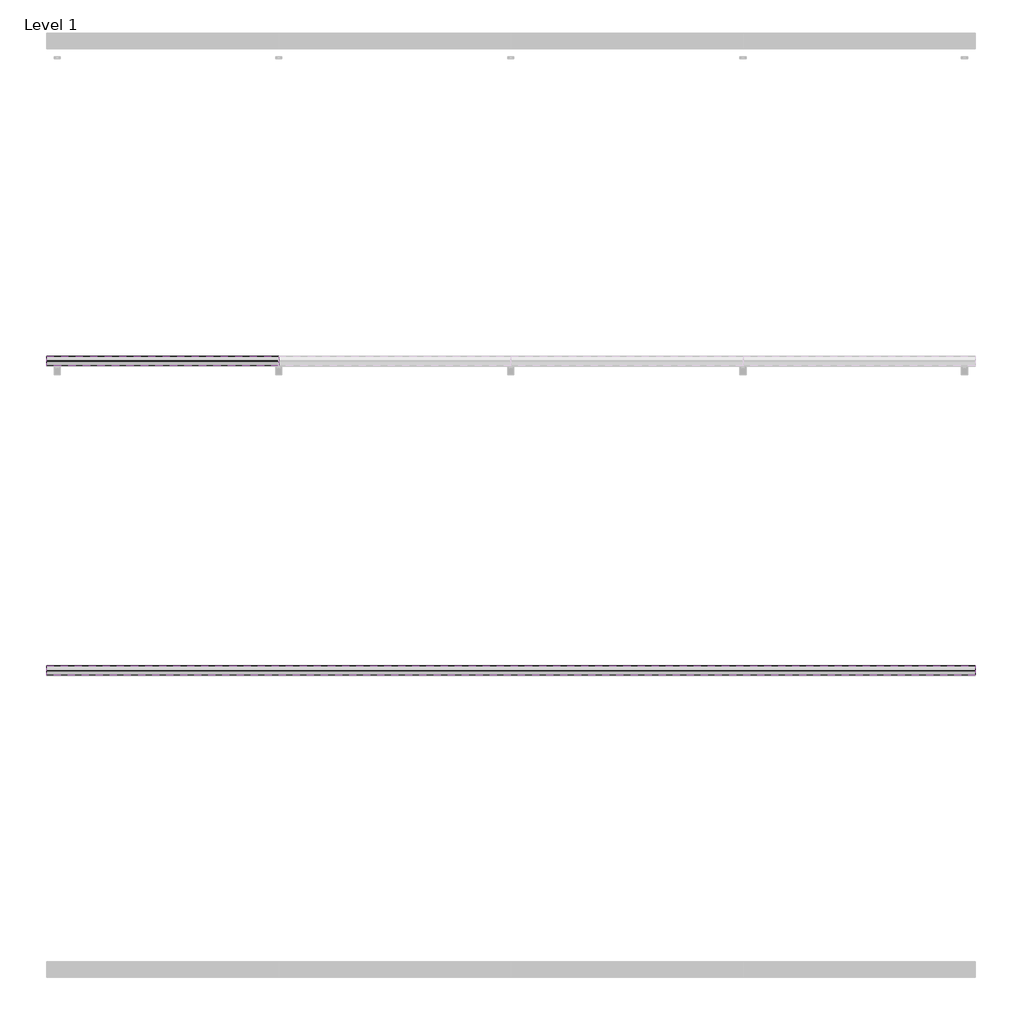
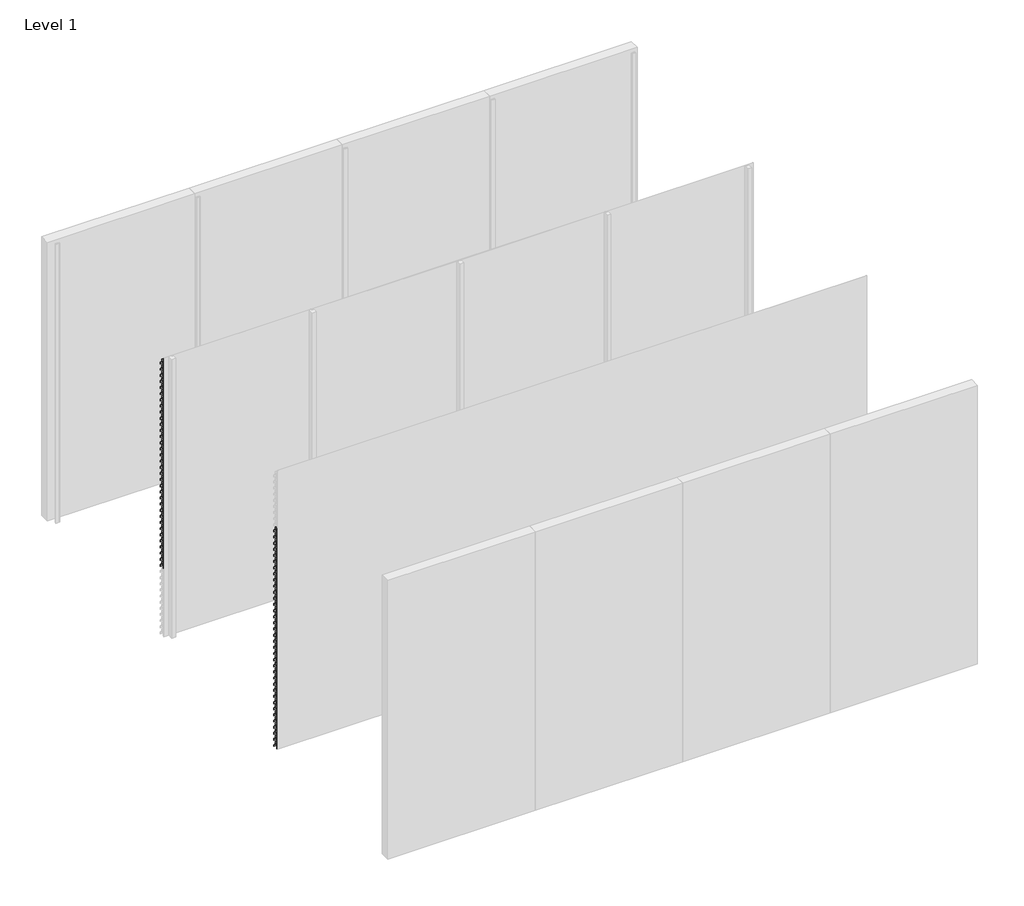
# One storey, part 16 of 35: 70 proxies.
"""IFC4 building model written with IfcOpenShell, lengths in millimetres."""

from ifc_helpers import new_model, si_unit, frame, origin, place, context, project, spatial, polyline, outline, extrude, element, save

model = new_model("IFC4")

# Units and contexts
model_context = context("Model", 3, world=origin())
ifc_project = project(units=[si_unit("LENGTHUNIT", "METRE", prefix="MILLI")], contexts=[model_context])

# Site, building, storey
site = spatial("IfcSite", under=ifc_project)
building = spatial("IfcBuilding", under=site)
storey = spatial("IfcBuildingStorey", under=building, Name="Level 1", Elevation=0.0)

# Proxies
placement = place(None, origin())
element("IfcBuildingElementProxy", 1, Name="Wall Sweeps", at=placement, inside=storey, context=model_context, shape_type="SweptSolid", body=[
    extrude(outline(polyline([(-29936.0, 2916.0), (-29936.0, 2896.0), (-29937.25, 2896.0), (-29937.25, 2915.4342979), (-29968.1138939, 2948.531772), (-29996.7, 2928.4392868), (-29996.7, 2909.6629874), (-29998.0, 2908.8506572), (-29998.0, 2929.1145472), (-29968.537525, 2949.823011), (-29968.537525, 2970.0), (-29967.1772624, 2970.0), (-29967.1772624, 2949.4335207), (-29936.0, 2916.0)])), frame((0.0, 0.0, 0.0), z_axis=(1.0, 0.0, 0.0), x_axis=(0.0, 1.0, 0.0)), (0.0, 0.0, 1.0), 1500.0),
])
element("IfcBuildingElementProxy", 2, Name="Wall Sweeps", at=placement, inside=storey, context=model_context, shape_type="SweptSolid", body=[
    extrude(outline(polyline([(-29936.0, 2850.0), (-29936.0, 2830.0), (-29937.25, 2830.0), (-29937.25, 2849.4342979), (-29968.1138939, 2882.531772), (-29996.7, 2862.4392868), (-29996.7, 2843.6629874), (-29998.0, 2842.8506572), (-29998.0, 2863.1145472), (-29968.537525, 2883.823011), (-29968.537525, 2904.0), (-29967.1772624, 2904.0), (-29967.1772624, 2883.4335207), (-29936.0, 2850.0)])), frame((0.0, 0.0, 0.0), z_axis=(1.0, 0.0, 0.0), x_axis=(0.0, 1.0, 0.0)), (0.0, 0.0, 1.0), 1500.0),
])
element("IfcBuildingElementProxy", 3, Name="Wall Sweeps", at=placement, inside=storey, context=model_context, shape_type="SweptSolid", body=[
    extrude(outline(polyline([(-29936.0, 2784.0), (-29936.0, 2764.0), (-29937.25, 2764.0), (-29937.25, 2783.4342979), (-29968.1138939, 2816.531772), (-29996.7, 2796.4392868), (-29996.7, 2777.6629874), (-29998.0, 2776.8506572), (-29998.0, 2797.1145472), (-29968.537525, 2817.823011), (-29968.537525, 2838.0), (-29967.1772624, 2838.0), (-29967.1772624, 2817.4335207), (-29936.0, 2784.0)])), frame((0.0, 0.0, 0.0), z_axis=(1.0, 0.0, 0.0), x_axis=(0.0, 1.0, 0.0)), (0.0, 0.0, 1.0), 1500.0),
])
element("IfcBuildingElementProxy", 4, Name="Wall Sweeps", at=placement, inside=storey, context=model_context, shape_type="SweptSolid", body=[
    extrude(outline(polyline([(-29936.0, 2718.0), (-29936.0, 2698.0), (-29937.25, 2698.0), (-29937.25, 2717.4342979), (-29968.1138939, 2750.531772), (-29996.7, 2730.4392868), (-29996.7, 2711.6629874), (-29998.0, 2710.8506572), (-29998.0, 2731.1145472), (-29968.537525, 2751.823011), (-29968.537525, 2772.0), (-29967.1772624, 2772.0), (-29967.1772624, 2751.4335207), (-29936.0, 2718.0)])), frame((0.0, 0.0, 0.0), z_axis=(1.0, 0.0, 0.0), x_axis=(0.0, 1.0, 0.0)), (0.0, 0.0, 1.0), 1500.0),
])
element("IfcBuildingElementProxy", 5, Name="Wall Sweeps", at=placement, inside=storey, context=model_context, shape_type="SweptSolid", body=[
    extrude(outline(polyline([(-29936.0, 2652.0), (-29936.0, 2632.0), (-29937.25, 2632.0), (-29937.25, 2651.4342979), (-29968.1138939, 2684.531772), (-29996.7, 2664.4392868), (-29996.7, 2645.6629874), (-29998.0, 2644.8506572), (-29998.0, 2665.1145472), (-29968.537525, 2685.823011), (-29968.537525, 2706.0), (-29967.1772624, 2706.0), (-29967.1772624, 2685.4335207), (-29936.0, 2652.0)])), frame((0.0, 0.0, 0.0), z_axis=(1.0, 0.0, 0.0), x_axis=(0.0, 1.0, 0.0)), (0.0, 0.0, 1.0), 1500.0),
])
element("IfcBuildingElementProxy", 6, Name="Wall Sweeps", at=placement, inside=storey, context=model_context, shape_type="SweptSolid", body=[
    extrude(outline(polyline([(-29936.0, 2586.0), (-29936.0, 2566.0), (-29937.25, 2566.0), (-29937.25, 2585.4342979), (-29968.1138939, 2618.531772), (-29996.7, 2598.4392868), (-29996.7, 2579.6629874), (-29998.0, 2578.8506572), (-29998.0, 2599.1145472), (-29968.537525, 2619.823011), (-29968.537525, 2640.0), (-29967.1772624, 2640.0), (-29967.1772624, 2619.4335207), (-29936.0, 2586.0)])), frame((0.0, 0.0, 0.0), z_axis=(1.0, 0.0, 0.0), x_axis=(0.0, 1.0, 0.0)), (0.0, 0.0, 1.0), 1500.0),
])
element("IfcBuildingElementProxy", 7, Name="Wall Sweeps", at=placement, inside=storey, context=model_context, shape_type="SweptSolid", body=[
    extrude(outline(polyline([(-29936.0, 2520.0), (-29936.0, 2500.0), (-29937.25, 2500.0), (-29937.25, 2519.4342979), (-29968.1138939, 2552.531772), (-29996.7, 2532.4392868), (-29996.7, 2513.6629874), (-29998.0, 2512.8506572), (-29998.0, 2533.1145472), (-29968.537525, 2553.823011), (-29968.537525, 2574.0), (-29967.1772624, 2574.0), (-29967.1772624, 2553.4335207), (-29936.0, 2520.0)])), frame((0.0, 0.0, 0.0), z_axis=(1.0, 0.0, 0.0), x_axis=(0.0, 1.0, 0.0)), (0.0, 0.0, 1.0), 1500.0),
])
element("IfcBuildingElementProxy", 8, Name="Wall Sweeps", at=placement, inside=storey, context=model_context, shape_type="SweptSolid", body=[
    extrude(outline(polyline([(-29936.0, 2454.0), (-29936.0, 2434.0), (-29937.25, 2434.0), (-29937.25, 2453.4342979), (-29968.1138939, 2486.531772), (-29996.7, 2466.4392868), (-29996.7, 2447.6629874), (-29998.0, 2446.8506572), (-29998.0, 2467.1145472), (-29968.537525, 2487.823011), (-29968.537525, 2508.0), (-29967.1772624, 2508.0), (-29967.1772624, 2487.4335207), (-29936.0, 2454.0)])), frame((0.0, 0.0, 0.0), z_axis=(1.0, 0.0, 0.0), x_axis=(0.0, 1.0, 0.0)), (0.0, 0.0, 1.0), 1500.0),
])
element("IfcBuildingElementProxy", 9, Name="Wall Sweeps", at=placement, inside=storey, context=model_context, shape_type="SweptSolid", body=[
    extrude(outline(polyline([(-29936.0, 2388.0), (-29936.0, 2368.0), (-29937.25, 2368.0), (-29937.25, 2387.4342979), (-29968.1138939, 2420.531772), (-29996.7, 2400.4392868), (-29996.7, 2381.6629874), (-29998.0, 2380.8506572), (-29998.0, 2401.1145472), (-29968.537525, 2421.823011), (-29968.537525, 2442.0), (-29967.1772624, 2442.0), (-29967.1772624, 2421.4335207), (-29936.0, 2388.0)])), frame((0.0, 0.0, 0.0), z_axis=(1.0, 0.0, 0.0), x_axis=(0.0, 1.0, 0.0)), (0.0, 0.0, 1.0), 1500.0),
])
element("IfcBuildingElementProxy", 10, Name="Wall Sweeps", at=placement, inside=storey, context=model_context, shape_type="SweptSolid", body=[
    extrude(outline(polyline([(-29936.0, 2322.0), (-29936.0, 2302.0), (-29937.25, 2302.0), (-29937.25, 2321.4342979), (-29968.1138939, 2354.531772), (-29996.7, 2334.4392868), (-29996.7, 2315.6629874), (-29998.0, 2314.8506572), (-29998.0, 2335.1145472), (-29968.537525, 2355.823011), (-29968.537525, 2376.0), (-29967.1772624, 2376.0), (-29967.1772624, 2355.4335207), (-29936.0, 2322.0)])), frame((0.0, 0.0, 0.0), z_axis=(1.0, 0.0, 0.0), x_axis=(0.0, 1.0, 0.0)), (0.0, 0.0, 1.0), 1500.0),
])
element("IfcBuildingElementProxy", 11, Name="Wall Sweeps", at=placement, inside=storey, context=model_context, shape_type="SweptSolid", body=[
    extrude(outline(polyline([(-29936.0, 2256.0), (-29936.0, 2236.0), (-29937.25, 2236.0), (-29937.25, 2255.4342979), (-29968.1138939, 2288.531772), (-29996.7, 2268.4392868), (-29996.7, 2249.6629874), (-29998.0, 2248.8506572), (-29998.0, 2269.1145472), (-29968.537525, 2289.823011), (-29968.537525, 2310.0), (-29967.1772624, 2310.0), (-29967.1772624, 2289.4335207), (-29936.0, 2256.0)])), frame((0.0, 0.0, 0.0), z_axis=(1.0, 0.0, 0.0), x_axis=(0.0, 1.0, 0.0)), (0.0, 0.0, 1.0), 1500.0),
])
element("IfcBuildingElementProxy", 12, Name="Wall Sweeps", at=placement, inside=storey, context=model_context, shape_type="SweptSolid", body=[
    extrude(outline(polyline([(-29936.0, 2190.0), (-29936.0, 2170.0), (-29937.25, 2170.0), (-29937.25, 2189.4342979), (-29968.1138939, 2222.531772), (-29996.7, 2202.4392868), (-29996.7, 2183.6629874), (-29998.0, 2182.8506572), (-29998.0, 2203.1145472), (-29968.537525, 2223.823011), (-29968.537525, 2244.0), (-29967.1772624, 2244.0), (-29967.1772624, 2223.4335207), (-29936.0, 2190.0)])), frame((0.0, 0.0, 0.0), z_axis=(1.0, 0.0, 0.0), x_axis=(0.0, 1.0, 0.0)), (0.0, 0.0, 1.0), 1500.0),
])
element("IfcBuildingElementProxy", 13, Name="Wall Sweeps", at=placement, inside=storey, context=model_context, shape_type="SweptSolid", body=[
    extrude(outline(polyline([(-29936.0, 2124.0), (-29936.0, 2104.0), (-29937.25, 2104.0), (-29937.25, 2123.4342979), (-29968.1138939, 2156.531772), (-29996.7, 2136.4392868), (-29996.7, 2117.6629874), (-29998.0, 2116.8506572), (-29998.0, 2137.1145472), (-29968.537525, 2157.823011), (-29968.537525, 2178.0), (-29967.1772624, 2178.0), (-29967.1772624, 2157.4335207), (-29936.0, 2124.0)])), frame((0.0, 0.0, 0.0), z_axis=(1.0, 0.0, 0.0), x_axis=(0.0, 1.0, 0.0)), (0.0, 0.0, 1.0), 1500.0),
])
element("IfcBuildingElementProxy", 14, Name="Wall Sweeps", at=placement, inside=storey, context=model_context, shape_type="SweptSolid", body=[
    extrude(outline(polyline([(-29936.0, 2058.0), (-29936.0, 2038.0), (-29937.25, 2038.0), (-29937.25, 2057.4342979), (-29968.1138939, 2090.531772), (-29996.7, 2070.4392868), (-29996.7, 2051.6629874), (-29998.0, 2050.8506572), (-29998.0, 2071.1145472), (-29968.537525, 2091.823011), (-29968.537525, 2112.0), (-29967.1772624, 2112.0), (-29967.1772624, 2091.4335207), (-29936.0, 2058.0)])), frame((0.0, 0.0, 0.0), z_axis=(1.0, 0.0, 0.0), x_axis=(0.0, 1.0, 0.0)), (0.0, 0.0, 1.0), 1500.0),
])
element("IfcBuildingElementProxy", 15, Name="Wall Sweeps", at=placement, inside=storey, context=model_context, shape_type="SweptSolid", body=[
    extrude(outline(polyline([(-29936.0, 1992.0), (-29936.0, 1972.0), (-29937.25, 1972.0), (-29937.25, 1991.4342979), (-29968.1138939, 2024.531772), (-29996.7, 2004.4392868), (-29996.7, 1985.6629874), (-29998.0, 1984.8506572), (-29998.0, 2005.1145472), (-29968.537525, 2025.823011), (-29968.537525, 2046.0), (-29967.1772624, 2046.0), (-29967.1772624, 2025.4335207), (-29936.0, 1992.0)])), frame((0.0, 0.0, 0.0), z_axis=(1.0, 0.0, 0.0), x_axis=(0.0, 1.0, 0.0)), (0.0, 0.0, 1.0), 1500.0),
])
element("IfcBuildingElementProxy", 16, Name="Wall Sweeps", at=placement, inside=storey, context=model_context, shape_type="SweptSolid", body=[
    extrude(outline(polyline([(-29936.0, 1926.0), (-29936.0, 1906.0), (-29937.25, 1906.0), (-29937.25, 1925.4342979), (-29968.1138939, 1958.531772), (-29996.7, 1938.4392868), (-29996.7, 1919.6629874), (-29998.0, 1918.8506572), (-29998.0, 1939.1145472), (-29968.537525, 1959.823011), (-29968.537525, 1980.0), (-29967.1772624, 1980.0), (-29967.1772624, 1959.4335207), (-29936.0, 1926.0)])), frame((0.0, 0.0, 0.0), z_axis=(1.0, 0.0, 0.0), x_axis=(0.0, 1.0, 0.0)), (0.0, 0.0, 1.0), 1500.0),
])
element("IfcBuildingElementProxy", 17, Name="Wall Sweeps", at=placement, inside=storey, context=model_context, shape_type="SweptSolid", body=[
    extrude(outline(polyline([(-29936.0, 1860.0), (-29936.0, 1840.0), (-29937.25, 1840.0), (-29937.25, 1859.4342979), (-29968.1138939, 1892.531772), (-29996.7, 1872.4392868), (-29996.7, 1853.6629874), (-29998.0, 1852.8506572), (-29998.0, 1873.1145472), (-29968.537525, 1893.823011), (-29968.537525, 1914.0), (-29967.1772624, 1914.0), (-29967.1772624, 1893.4335207), (-29936.0, 1860.0)])), frame((0.0, 0.0, 0.0), z_axis=(1.0, 0.0, 0.0), x_axis=(0.0, 1.0, 0.0)), (0.0, 0.0, 1.0), 1500.0),
])
element("IfcBuildingElementProxy", 18, Name="Wall Sweeps", at=placement, inside=storey, context=model_context, shape_type="SweptSolid", body=[
    extrude(outline(polyline([(-29936.0, 1794.0), (-29936.0, 1774.0), (-29937.25, 1774.0), (-29937.25, 1793.4342979), (-29968.1138939, 1826.531772), (-29996.7, 1806.4392868), (-29996.7, 1787.6629874), (-29998.0, 1786.8506572), (-29998.0, 1807.1145472), (-29968.537525, 1827.823011), (-29968.537525, 1848.0), (-29967.1772624, 1848.0), (-29967.1772624, 1827.4335207), (-29936.0, 1794.0)])), frame((0.0, 0.0, 0.0), z_axis=(1.0, 0.0, 0.0), x_axis=(0.0, 1.0, 0.0)), (0.0, 0.0, 1.0), 1500.0),
])
element("IfcBuildingElementProxy", 19, Name="Wall Sweeps", at=placement, inside=storey, context=model_context, shape_type="SweptSolid", body=[
    extrude(outline(polyline([(-29936.0, 1728.0), (-29936.0, 1708.0), (-29937.25, 1708.0), (-29937.25, 1727.4342979), (-29968.1138939, 1760.531772), (-29996.7, 1740.4392868), (-29996.7, 1721.6629874), (-29998.0, 1720.8506572), (-29998.0, 1741.1145472), (-29968.537525, 1761.823011), (-29968.537525, 1782.0), (-29967.1772624, 1782.0), (-29967.1772624, 1761.4335207), (-29936.0, 1728.0)])), frame((0.0, 0.0, 0.0), z_axis=(1.0, 0.0, 0.0), x_axis=(0.0, 1.0, 0.0)), (0.0, 0.0, 1.0), 1500.0),
])
element("IfcBuildingElementProxy", 20, Name="Wall Sweeps", at=placement, inside=storey, context=model_context, shape_type="SweptSolid", body=[
    extrude(outline(polyline([(-29936.0, 1662.0), (-29936.0, 1642.0), (-29937.25, 1642.0), (-29937.25, 1661.4342979), (-29968.1138939, 1694.531772), (-29996.7, 1674.4392868), (-29996.7, 1655.6629874), (-29998.0, 1654.8506572), (-29998.0, 1675.1145472), (-29968.537525, 1695.823011), (-29968.537525, 1716.0), (-29967.1772624, 1716.0), (-29967.1772624, 1695.4335207), (-29936.0, 1662.0)])), frame((0.0, 0.0, 0.0), z_axis=(1.0, 0.0, 0.0), x_axis=(0.0, 1.0, 0.0)), (0.0, 0.0, 1.0), 1500.0),
])
element("IfcBuildingElementProxy", 21, Name="Wall Sweeps", at=placement, inside=storey, context=model_context, shape_type="SweptSolid", body=[
    extrude(outline(polyline([(-29936.0, 1596.0), (-29936.0, 1576.0), (-29937.25, 1576.0), (-29937.25, 1595.4342979), (-29968.1138939, 1628.531772), (-29996.7, 1608.4392868), (-29996.7, 1589.6629874), (-29998.0, 1588.8506572), (-29998.0, 1609.1145472), (-29968.537525, 1629.823011), (-29968.537525, 1650.0), (-29967.1772624, 1650.0), (-29967.1772624, 1629.4335207), (-29936.0, 1596.0)])), frame((0.0, 0.0, 0.0), z_axis=(1.0, 0.0, 0.0), x_axis=(0.0, 1.0, 0.0)), (0.0, 0.0, 1.0), 1500.0),
])
element("IfcBuildingElementProxy", 22, Name="Wall Sweeps", at=placement, inside=storey, context=model_context, shape_type="SweptSolid", body=[
    extrude(outline(polyline([(-29936.0, 1530.0), (-29936.0, 1510.0), (-29937.25, 1510.0), (-29937.25, 1529.4342979), (-29968.1138939, 1562.531772), (-29996.7, 1542.4392868), (-29996.7, 1523.6629874), (-29998.0, 1522.8506572), (-29998.0, 1543.1145472), (-29968.537525, 1563.823011), (-29968.537525, 1584.0), (-29967.1772624, 1584.0), (-29967.1772624, 1563.4335207), (-29936.0, 1530.0)])), frame((0.0, 0.0, 0.0), z_axis=(1.0, 0.0, 0.0), x_axis=(0.0, 1.0, 0.0)), (0.0, 0.0, 1.0), 1500.0),
])
element("IfcBuildingElementProxy", 23, Name="Wall Sweeps", at=placement, inside=storey, context=model_context, shape_type="SweptSolid", body=[
    extrude(outline(polyline([(-29936.0, 1464.0), (-29936.0, 1444.0), (-29937.25, 1444.0), (-29937.25, 1463.4342979), (-29968.1138939, 1496.531772), (-29996.7, 1476.4392868), (-29996.7, 1457.6629874), (-29998.0, 1456.8506572), (-29998.0, 1477.1145472), (-29968.537525, 1497.823011), (-29968.537525, 1518.0), (-29967.1772624, 1518.0), (-29967.1772624, 1497.4335207), (-29936.0, 1464.0)])), frame((0.0, 0.0, 0.0), z_axis=(1.0, 0.0, 0.0), x_axis=(0.0, 1.0, 0.0)), (0.0, 0.0, 1.0), 1500.0),
])
element("IfcBuildingElementProxy", 24, Name="Wall Sweeps", at=placement, inside=storey, context=model_context, shape_type="SweptSolid", body=[
    extrude(outline(polyline([(-29936.0, 1398.0), (-29936.0, 1378.0), (-29937.25, 1378.0), (-29937.25, 1397.4342979), (-29968.1138939, 1430.531772), (-29996.7, 1410.4392868), (-29996.7, 1391.6629874), (-29998.0, 1390.8506572), (-29998.0, 1411.1145472), (-29968.537525, 1431.823011), (-29968.537525, 1452.0), (-29967.1772624, 1452.0), (-29967.1772624, 1431.4335207), (-29936.0, 1398.0)])), frame((0.0, 0.0, 0.0), z_axis=(1.0, 0.0, 0.0), x_axis=(0.0, 1.0, 0.0)), (0.0, 0.0, 1.0), 1500.0),
])
element("IfcBuildingElementProxy", 25, Name="Wall Sweeps", at=placement, inside=storey, context=model_context, shape_type="SweptSolid", body=[
    extrude(outline(polyline([(-29936.0, 1332.0), (-29936.0, 1312.0), (-29937.25, 1312.0), (-29937.25, 1331.4342979), (-29968.1138939, 1364.531772), (-29996.7, 1344.4392868), (-29996.7, 1325.6629874), (-29998.0, 1324.8506572), (-29998.0, 1345.1145472), (-29968.537525, 1365.823011), (-29968.537525, 1386.0), (-29967.1772624, 1386.0), (-29967.1772624, 1365.4335207), (-29936.0, 1332.0)])), frame((0.0, 0.0, 0.0), z_axis=(1.0, 0.0, 0.0), x_axis=(0.0, 1.0, 0.0)), (0.0, 0.0, 1.0), 1500.0),
])
element("IfcBuildingElementProxy", 26, Name="Wall Sweeps", at=placement, inside=storey, context=model_context, shape_type="SweptSolid", body=[
    extrude(outline(polyline([(-29936.0, 1266.0), (-29936.0, 1246.0), (-29937.25, 1246.0), (-29937.25, 1265.4342979), (-29968.1138939, 1298.531772), (-29996.7, 1278.4392868), (-29996.7, 1259.6629874), (-29998.0, 1258.8506572), (-29998.0, 1279.1145472), (-29968.537525, 1299.823011), (-29968.537525, 1320.0), (-29967.1772624, 1320.0), (-29967.1772624, 1299.4335207), (-29936.0, 1266.0)])), frame((0.0, 0.0, 0.0), z_axis=(1.0, 0.0, 0.0), x_axis=(0.0, 1.0, 0.0)), (0.0, 0.0, 1.0), 1500.0),
])
element("IfcBuildingElementProxy", 27, Name="Wall Sweeps", at=placement, inside=storey, context=model_context, shape_type="SweptSolid", body=[
    extrude(outline(polyline([(-29936.0, 1200.0), (-29936.0, 1180.0), (-29937.25, 1180.0), (-29937.25, 1199.4342979), (-29968.1138939, 1232.531772), (-29996.7, 1212.4392868), (-29996.7, 1193.6629874), (-29998.0, 1192.8506572), (-29998.0, 1213.1145472), (-29968.537525, 1233.823011), (-29968.537525, 1254.0), (-29967.1772624, 1254.0), (-29967.1772624, 1233.4335207), (-29936.0, 1200.0)])), frame((0.0, 0.0, 0.0), z_axis=(1.0, 0.0, 0.0), x_axis=(0.0, 1.0, 0.0)), (0.0, 0.0, 1.0), 1500.0),
])
element("IfcBuildingElementProxy", 28, Name="Wall Sweeps", at=placement, inside=storey, context=model_context, shape_type="SweptSolid", body=[
    extrude(outline(polyline([(-29936.0, 1134.0), (-29936.0, 1114.0), (-29937.25, 1114.0), (-29937.25, 1133.4342979), (-29968.1138939, 1166.531772), (-29996.7, 1146.4392868), (-29996.7, 1127.6629874), (-29998.0, 1126.8506572), (-29998.0, 1147.1145472), (-29968.537525, 1167.823011), (-29968.537525, 1188.0), (-29967.1772624, 1188.0), (-29967.1772624, 1167.4335207), (-29936.0, 1134.0)])), frame((0.0, 0.0, 0.0), z_axis=(1.0, 0.0, 0.0), x_axis=(0.0, 1.0, 0.0)), (0.0, 0.0, 1.0), 1500.0),
])
element("IfcBuildingElementProxy", 29, Name="Wall Sweeps", at=placement, inside=storey, context=model_context, shape_type="SweptSolid", body=[
    extrude(outline(polyline([(-29936.0, 1068.0), (-29936.0, 1048.0), (-29937.25, 1048.0), (-29937.25, 1067.4342979), (-29968.1138939, 1100.531772), (-29996.7, 1080.4392868), (-29996.7, 1061.6629874), (-29998.0, 1060.8506572), (-29998.0, 1081.1145472), (-29968.537525, 1101.823011), (-29968.537525, 1122.0), (-29967.1772624, 1122.0), (-29967.1772624, 1101.4335207), (-29936.0, 1068.0)])), frame((0.0, 0.0, 0.0), z_axis=(1.0, 0.0, 0.0), x_axis=(0.0, 1.0, 0.0)), (0.0, 0.0, 1.0), 1500.0),
])
element("IfcBuildingElementProxy", 30, Name="Wall Sweeps", at=placement, inside=storey, context=model_context, shape_type="SweptSolid", body=[
    extrude(outline(polyline([(-29936.0, 1002.0), (-29936.0, 982.0), (-29937.25, 982.0), (-29937.25, 1001.4342979), (-29968.1138939, 1034.531772), (-29996.7, 1014.4392868), (-29996.7, 995.6629874), (-29998.0, 994.8506572), (-29998.0, 1015.1145472), (-29968.537525, 1035.823011), (-29968.537525, 1056.0), (-29967.1772624, 1056.0), (-29967.1772624, 1035.4335207), (-29936.0, 1002.0)])), frame((0.0, 0.0, 0.0), z_axis=(1.0, 0.0, 0.0), x_axis=(0.0, 1.0, 0.0)), (0.0, 0.0, 1.0), 1500.0),
])
element("IfcBuildingElementProxy", 31, Name="Wall Sweeps", at=placement, inside=storey, context=model_context, shape_type="SweptSolid", body=[
    extrude(outline(polyline([(-29936.0, 936.0), (-29936.0, 916.0), (-29937.25, 916.0), (-29937.25, 935.4342979), (-29968.1138939, 968.531772), (-29996.7, 948.4392868), (-29996.7, 929.6629874), (-29998.0, 928.8506572), (-29998.0, 949.1145472), (-29968.537525, 969.823011), (-29968.537525, 990.0), (-29967.1772624, 990.0), (-29967.1772624, 969.4335207), (-29936.0, 936.0)])), frame((0.0, 0.0, 0.0), z_axis=(1.0, 0.0, 0.0), x_axis=(0.0, 1.0, 0.0)), (0.0, 0.0, 1.0), 1500.0),
])
element("IfcBuildingElementProxy", 32, Name="Wall Sweeps", at=placement, inside=storey, context=model_context, shape_type="SweptSolid", body=[
    extrude(outline(polyline([(-29936.0, 870.0), (-29936.0, 850.0), (-29937.25, 850.0), (-29937.25, 869.4342979), (-29968.1138939, 902.531772), (-29996.7, 882.4392868), (-29996.7, 863.6629874), (-29998.0, 862.8506572), (-29998.0, 883.1145472), (-29968.537525, 903.823011), (-29968.537525, 924.0), (-29967.1772624, 924.0), (-29967.1772624, 903.4335207), (-29936.0, 870.0)])), frame((0.0, 0.0, 0.0), z_axis=(1.0, 0.0, 0.0), x_axis=(0.0, 1.0, 0.0)), (0.0, 0.0, 1.0), 1500.0),
])
element("IfcBuildingElementProxy", 33, Name="Wall Sweeps", at=placement, inside=storey, context=model_context, shape_type="SweptSolid", body=[
    extrude(outline(polyline([(-29936.0, 804.0), (-29936.0, 784.0), (-29937.25, 784.0), (-29937.25, 803.4342979), (-29968.1138939, 836.531772), (-29996.7, 816.4392868), (-29996.7, 797.6629874), (-29998.0, 796.8506572), (-29998.0, 817.1145472), (-29968.537525, 837.823011), (-29968.537525, 858.0), (-29967.1772624, 858.0), (-29967.1772624, 837.4335207), (-29936.0, 804.0)])), frame((0.0, 0.0, 0.0), z_axis=(1.0, 0.0, 0.0), x_axis=(0.0, 1.0, 0.0)), (0.0, 0.0, 1.0), 1500.0),
])
element("IfcBuildingElementProxy", 34, Name="Wall Sweeps", at=placement, inside=storey, context=model_context, shape_type="SweptSolid", body=[
    extrude(outline(polyline([(-29936.0, 738.0), (-29936.0, 718.0), (-29937.25, 718.0), (-29937.25, 737.4342979), (-29968.1138939, 770.531772), (-29996.7, 750.4392868), (-29996.7, 731.6629874), (-29998.0, 730.8506572), (-29998.0, 751.1145472), (-29968.537525, 771.823011), (-29968.537525, 792.0), (-29967.1772624, 792.0), (-29967.1772624, 771.4335207), (-29936.0, 738.0)])), frame((0.0, 0.0, 0.0), z_axis=(1.0, 0.0, 0.0), x_axis=(0.0, 1.0, 0.0)), (0.0, 0.0, 1.0), 1500.0),
])
element("IfcBuildingElementProxy", 35, Name="Wall Sweeps", at=placement, inside=storey, context=model_context, shape_type="SweptSolid", body=[
    extrude(outline(polyline([(-31936.0, 2322.0), (-31936.0, 2302.0), (-31937.25, 2302.0), (-31937.25, 2321.4342979), (-31968.1138939, 2354.531772), (-31996.7, 2334.4392868), (-31996.7, 2315.6629874), (-31998.0, 2314.8506572), (-31998.0, 2335.1145472), (-31968.537525, 2355.823011), (-31968.537525, 2376.0), (-31967.1772624, 2376.0), (-31967.1772624, 2355.4335207), (-31936.0, 2322.0)])), frame((0.0, 0.0, 0.0), z_axis=(1.0, 0.0, 0.0), x_axis=(0.0, 1.0, 0.0)), (0.0, 0.0, 1.0), 6000.0),
])
element("IfcBuildingElementProxy", 36, Name="Wall Sweeps", at=placement, inside=storey, context=model_context, shape_type="SweptSolid", body=[
    extrude(outline(polyline([(-31936.0, 2256.0), (-31936.0, 2236.0), (-31937.25, 2236.0), (-31937.25, 2255.4342979), (-31968.1138939, 2288.531772), (-31996.7, 2268.4392868), (-31996.7, 2249.6629874), (-31998.0, 2248.8506572), (-31998.0, 2269.1145472), (-31968.537525, 2289.823011), (-31968.537525, 2310.0), (-31967.1772624, 2310.0), (-31967.1772624, 2289.4335207), (-31936.0, 2256.0)])), frame((0.0, 0.0, 0.0), z_axis=(1.0, 0.0, 0.0), x_axis=(0.0, 1.0, 0.0)), (0.0, 0.0, 1.0), 6000.0),
])
element("IfcBuildingElementProxy", 37, Name="Wall Sweeps", at=placement, inside=storey, context=model_context, shape_type="SweptSolid", body=[
    extrude(outline(polyline([(-31936.0, 2190.0), (-31936.0, 2170.0), (-31937.25, 2170.0), (-31937.25, 2189.4342979), (-31968.1138939, 2222.531772), (-31996.7, 2202.4392868), (-31996.7, 2183.6629874), (-31998.0, 2182.8506572), (-31998.0, 2203.1145472), (-31968.537525, 2223.823011), (-31968.537525, 2244.0), (-31967.1772624, 2244.0), (-31967.1772624, 2223.4335207), (-31936.0, 2190.0)])), frame((0.0, 0.0, 0.0), z_axis=(1.0, 0.0, 0.0), x_axis=(0.0, 1.0, 0.0)), (0.0, 0.0, 1.0), 6000.0),
])
element("IfcBuildingElementProxy", 38, Name="Wall Sweeps", at=placement, inside=storey, context=model_context, shape_type="SweptSolid", body=[
    extrude(outline(polyline([(-31936.0, 2124.0), (-31936.0, 2104.0), (-31937.25, 2104.0), (-31937.25, 2123.4342979), (-31968.1138939, 2156.531772), (-31996.7, 2136.4392868), (-31996.7, 2117.6629874), (-31998.0, 2116.8506572), (-31998.0, 2137.1145472), (-31968.537525, 2157.823011), (-31968.537525, 2178.0), (-31967.1772624, 2178.0), (-31967.1772624, 2157.4335207), (-31936.0, 2124.0)])), frame((0.0, 0.0, 0.0), z_axis=(1.0, 0.0, 0.0), x_axis=(0.0, 1.0, 0.0)), (0.0, 0.0, 1.0), 6000.0),
])
element("IfcBuildingElementProxy", 39, Name="Wall Sweeps", at=placement, inside=storey, context=model_context, shape_type="SweptSolid", body=[
    extrude(outline(polyline([(-31936.0, 2058.0), (-31936.0, 2038.0), (-31937.25, 2038.0), (-31937.25, 2057.4342979), (-31968.1138939, 2090.531772), (-31996.7, 2070.4392868), (-31996.7, 2051.6629874), (-31998.0, 2050.8506572), (-31998.0, 2071.1145472), (-31968.537525, 2091.823011), (-31968.537525, 2112.0), (-31967.1772624, 2112.0), (-31967.1772624, 2091.4335207), (-31936.0, 2058.0)])), frame((0.0, 0.0, 0.0), z_axis=(1.0, 0.0, 0.0), x_axis=(0.0, 1.0, 0.0)), (0.0, 0.0, 1.0), 6000.0),
])
element("IfcBuildingElementProxy", 40, Name="Wall Sweeps", at=placement, inside=storey, context=model_context, shape_type="SweptSolid", body=[
    extrude(outline(polyline([(-31936.0, 1992.0), (-31936.0, 1972.0), (-31937.25, 1972.0), (-31937.25, 1991.4342979), (-31968.1138939, 2024.531772), (-31996.7, 2004.4392868), (-31996.7, 1985.6629874), (-31998.0, 1984.8506572), (-31998.0, 2005.1145472), (-31968.537525, 2025.823011), (-31968.537525, 2046.0), (-31967.1772624, 2046.0), (-31967.1772624, 2025.4335207), (-31936.0, 1992.0)])), frame((0.0, 0.0, 0.0), z_axis=(1.0, 0.0, 0.0), x_axis=(0.0, 1.0, 0.0)), (0.0, 0.0, 1.0), 6000.0),
])
element("IfcBuildingElementProxy", 41, Name="Wall Sweeps", at=placement, inside=storey, context=model_context, shape_type="SweptSolid", body=[
    extrude(outline(polyline([(-31936.0, 1926.0), (-31936.0, 1906.0), (-31937.25, 1906.0), (-31937.25, 1925.4342979), (-31968.1138939, 1958.531772), (-31996.7, 1938.4392868), (-31996.7, 1919.6629874), (-31998.0, 1918.8506572), (-31998.0, 1939.1145472), (-31968.537525, 1959.823011), (-31968.537525, 1980.0), (-31967.1772624, 1980.0), (-31967.1772624, 1959.4335207), (-31936.0, 1926.0)])), frame((0.0, 0.0, 0.0), z_axis=(1.0, 0.0, 0.0), x_axis=(0.0, 1.0, 0.0)), (0.0, 0.0, 1.0), 6000.0),
])
element("IfcBuildingElementProxy", 42, Name="Wall Sweeps", at=placement, inside=storey, context=model_context, shape_type="SweptSolid", body=[
    extrude(outline(polyline([(-31936.0, 1860.0), (-31936.0, 1840.0), (-31937.25, 1840.0), (-31937.25, 1859.4342979), (-31968.1138939, 1892.531772), (-31996.7, 1872.4392868), (-31996.7, 1853.6629874), (-31998.0, 1852.8506572), (-31998.0, 1873.1145472), (-31968.537525, 1893.823011), (-31968.537525, 1914.0), (-31967.1772624, 1914.0), (-31967.1772624, 1893.4335207), (-31936.0, 1860.0)])), frame((0.0, 0.0, 0.0), z_axis=(1.0, 0.0, 0.0), x_axis=(0.0, 1.0, 0.0)), (0.0, 0.0, 1.0), 6000.0),
])
element("IfcBuildingElementProxy", 43, Name="Wall Sweeps", at=placement, inside=storey, context=model_context, shape_type="SweptSolid", body=[
    extrude(outline(polyline([(-31936.0, 1794.0), (-31936.0, 1774.0), (-31937.25, 1774.0), (-31937.25, 1793.4342979), (-31968.1138939, 1826.531772), (-31996.7, 1806.4392868), (-31996.7, 1787.6629874), (-31998.0, 1786.8506572), (-31998.0, 1807.1145472), (-31968.537525, 1827.823011), (-31968.537525, 1848.0), (-31967.1772624, 1848.0), (-31967.1772624, 1827.4335207), (-31936.0, 1794.0)])), frame((0.0, 0.0, 0.0), z_axis=(1.0, 0.0, 0.0), x_axis=(0.0, 1.0, 0.0)), (0.0, 0.0, 1.0), 6000.0),
])
element("IfcBuildingElementProxy", 44, Name="Wall Sweeps", at=placement, inside=storey, context=model_context, shape_type="SweptSolid", body=[
    extrude(outline(polyline([(-31936.0, 1728.0), (-31936.0, 1708.0), (-31937.25, 1708.0), (-31937.25, 1727.4342979), (-31968.1138939, 1760.531772), (-31996.7, 1740.4392868), (-31996.7, 1721.6629874), (-31998.0, 1720.8506572), (-31998.0, 1741.1145472), (-31968.537525, 1761.823011), (-31968.537525, 1782.0), (-31967.1772624, 1782.0), (-31967.1772624, 1761.4335207), (-31936.0, 1728.0)])), frame((0.0, 0.0, 0.0), z_axis=(1.0, 0.0, 0.0), x_axis=(0.0, 1.0, 0.0)), (0.0, 0.0, 1.0), 6000.0),
])
element("IfcBuildingElementProxy", 45, Name="Wall Sweeps", at=placement, inside=storey, context=model_context, shape_type="SweptSolid", body=[
    extrude(outline(polyline([(-31936.0, 1662.0), (-31936.0, 1642.0), (-31937.25, 1642.0), (-31937.25, 1661.4342979), (-31968.1138939, 1694.531772), (-31996.7, 1674.4392868), (-31996.7, 1655.6629874), (-31998.0, 1654.8506572), (-31998.0, 1675.1145472), (-31968.537525, 1695.823011), (-31968.537525, 1716.0), (-31967.1772624, 1716.0), (-31967.1772624, 1695.4335207), (-31936.0, 1662.0)])), frame((0.0, 0.0, 0.0), z_axis=(1.0, 0.0, 0.0), x_axis=(0.0, 1.0, 0.0)), (0.0, 0.0, 1.0), 6000.0),
])
element("IfcBuildingElementProxy", 46, Name="Wall Sweeps", at=placement, inside=storey, context=model_context, shape_type="SweptSolid", body=[
    extrude(outline(polyline([(-31936.0, 1596.0), (-31936.0, 1576.0), (-31937.25, 1576.0), (-31937.25, 1595.4342979), (-31968.1138939, 1628.531772), (-31996.7, 1608.4392868), (-31996.7, 1589.6629874), (-31998.0, 1588.8506572), (-31998.0, 1609.1145472), (-31968.537525, 1629.823011), (-31968.537525, 1650.0), (-31967.1772624, 1650.0), (-31967.1772624, 1629.4335207), (-31936.0, 1596.0)])), frame((0.0, 0.0, 0.0), z_axis=(1.0, 0.0, 0.0), x_axis=(0.0, 1.0, 0.0)), (0.0, 0.0, 1.0), 6000.0),
])
element("IfcBuildingElementProxy", 47, Name="Wall Sweeps", at=placement, inside=storey, context=model_context, shape_type="SweptSolid", body=[
    extrude(outline(polyline([(-31936.0, 1530.0), (-31936.0, 1510.0), (-31937.25, 1510.0), (-31937.25, 1529.4342979), (-31968.1138939, 1562.531772), (-31996.7, 1542.4392868), (-31996.7, 1523.6629874), (-31998.0, 1522.8506572), (-31998.0, 1543.1145472), (-31968.537525, 1563.823011), (-31968.537525, 1584.0), (-31967.1772624, 1584.0), (-31967.1772624, 1563.4335207), (-31936.0, 1530.0)])), frame((0.0, 0.0, 0.0), z_axis=(1.0, 0.0, 0.0), x_axis=(0.0, 1.0, 0.0)), (0.0, 0.0, 1.0), 6000.0),
])
element("IfcBuildingElementProxy", 48, Name="Wall Sweeps", at=placement, inside=storey, context=model_context, shape_type="SweptSolid", body=[
    extrude(outline(polyline([(-31936.0, 1464.0), (-31936.0, 1444.0), (-31937.25, 1444.0), (-31937.25, 1463.4342979), (-31968.1138939, 1496.531772), (-31996.7, 1476.4392868), (-31996.7, 1457.6629874), (-31998.0, 1456.8506572), (-31998.0, 1477.1145472), (-31968.537525, 1497.823011), (-31968.537525, 1518.0), (-31967.1772624, 1518.0), (-31967.1772624, 1497.4335207), (-31936.0, 1464.0)])), frame((0.0, 0.0, 0.0), z_axis=(1.0, 0.0, 0.0), x_axis=(0.0, 1.0, 0.0)), (0.0, 0.0, 1.0), 6000.0),
])
element("IfcBuildingElementProxy", 49, Name="Wall Sweeps", at=placement, inside=storey, context=model_context, shape_type="SweptSolid", body=[
    extrude(outline(polyline([(-31936.0, 1398.0), (-31936.0, 1378.0), (-31937.25, 1378.0), (-31937.25, 1397.4342979), (-31968.1138939, 1430.531772), (-31996.7, 1410.4392868), (-31996.7, 1391.6629874), (-31998.0, 1390.8506572), (-31998.0, 1411.1145472), (-31968.537525, 1431.823011), (-31968.537525, 1452.0), (-31967.1772624, 1452.0), (-31967.1772624, 1431.4335207), (-31936.0, 1398.0)])), frame((0.0, 0.0, 0.0), z_axis=(1.0, 0.0, 0.0), x_axis=(0.0, 1.0, 0.0)), (0.0, 0.0, 1.0), 6000.0),
])
element("IfcBuildingElementProxy", 50, Name="Wall Sweeps", at=placement, inside=storey, context=model_context, shape_type="SweptSolid", body=[
    extrude(outline(polyline([(-31936.0, 1332.0), (-31936.0, 1312.0), (-31937.25, 1312.0), (-31937.25, 1331.4342979), (-31968.1138939, 1364.531772), (-31996.7, 1344.4392868), (-31996.7, 1325.6629874), (-31998.0, 1324.8506572), (-31998.0, 1345.1145472), (-31968.537525, 1365.823011), (-31968.537525, 1386.0), (-31967.1772624, 1386.0), (-31967.1772624, 1365.4335207), (-31936.0, 1332.0)])), frame((0.0, 0.0, 0.0), z_axis=(1.0, 0.0, 0.0), x_axis=(0.0, 1.0, 0.0)), (0.0, 0.0, 1.0), 6000.0),
])
element("IfcBuildingElementProxy", 51, Name="Wall Sweeps", at=placement, inside=storey, context=model_context, shape_type="SweptSolid", body=[
    extrude(outline(polyline([(-31936.0, 1266.0), (-31936.0, 1246.0), (-31937.25, 1246.0), (-31937.25, 1265.4342979), (-31968.1138939, 1298.531772), (-31996.7, 1278.4392868), (-31996.7, 1259.6629874), (-31998.0, 1258.8506572), (-31998.0, 1279.1145472), (-31968.537525, 1299.823011), (-31968.537525, 1320.0), (-31967.1772624, 1320.0), (-31967.1772624, 1299.4335207), (-31936.0, 1266.0)])), frame((0.0, 0.0, 0.0), z_axis=(1.0, 0.0, 0.0), x_axis=(0.0, 1.0, 0.0)), (0.0, 0.0, 1.0), 6000.0),
])
element("IfcBuildingElementProxy", 52, Name="Wall Sweeps", at=placement, inside=storey, context=model_context, shape_type="SweptSolid", body=[
    extrude(outline(polyline([(-31936.0, 1200.0), (-31936.0, 1180.0), (-31937.25, 1180.0), (-31937.25, 1199.4342979), (-31968.1138939, 1232.531772), (-31996.7, 1212.4392868), (-31996.7, 1193.6629874), (-31998.0, 1192.8506572), (-31998.0, 1213.1145472), (-31968.537525, 1233.823011), (-31968.537525, 1254.0), (-31967.1772624, 1254.0), (-31967.1772624, 1233.4335207), (-31936.0, 1200.0)])), frame((0.0, 0.0, 0.0), z_axis=(1.0, 0.0, 0.0), x_axis=(0.0, 1.0, 0.0)), (0.0, 0.0, 1.0), 6000.0),
])
element("IfcBuildingElementProxy", 53, Name="Wall Sweeps", at=placement, inside=storey, context=model_context, shape_type="SweptSolid", body=[
    extrude(outline(polyline([(-31936.0, 1134.0), (-31936.0, 1114.0), (-31937.25, 1114.0), (-31937.25, 1133.4342979), (-31968.1138939, 1166.531772), (-31996.7, 1146.4392868), (-31996.7, 1127.6629874), (-31998.0, 1126.8506572), (-31998.0, 1147.1145472), (-31968.537525, 1167.823011), (-31968.537525, 1188.0), (-31967.1772624, 1188.0), (-31967.1772624, 1167.4335207), (-31936.0, 1134.0)])), frame((0.0, 0.0, 0.0), z_axis=(1.0, 0.0, 0.0), x_axis=(0.0, 1.0, 0.0)), (0.0, 0.0, 1.0), 6000.0),
])
element("IfcBuildingElementProxy", 54, Name="Wall Sweeps", at=placement, inside=storey, context=model_context, shape_type="SweptSolid", body=[
    extrude(outline(polyline([(-31936.0, 1068.0), (-31936.0, 1048.0), (-31937.25, 1048.0), (-31937.25, 1067.4342979), (-31968.1138939, 1100.531772), (-31996.7, 1080.4392868), (-31996.7, 1061.6629874), (-31998.0, 1060.8506572), (-31998.0, 1081.1145472), (-31968.537525, 1101.823011), (-31968.537525, 1122.0), (-31967.1772624, 1122.0), (-31967.1772624, 1101.4335207), (-31936.0, 1068.0)])), frame((0.0, 0.0, 0.0), z_axis=(1.0, 0.0, 0.0), x_axis=(0.0, 1.0, 0.0)), (0.0, 0.0, 1.0), 6000.0),
])
element("IfcBuildingElementProxy", 55, Name="Wall Sweeps", at=placement, inside=storey, context=model_context, shape_type="SweptSolid", body=[
    extrude(outline(polyline([(-31936.0, 1002.0), (-31936.0, 982.0), (-31937.25, 982.0), (-31937.25, 1001.4342979), (-31968.1138939, 1034.531772), (-31996.7, 1014.4392868), (-31996.7, 995.6629874), (-31998.0, 994.8506572), (-31998.0, 1015.1145472), (-31968.537525, 1035.823011), (-31968.537525, 1056.0), (-31967.1772624, 1056.0), (-31967.1772624, 1035.4335207), (-31936.0, 1002.0)])), frame((0.0, 0.0, 0.0), z_axis=(1.0, 0.0, 0.0), x_axis=(0.0, 1.0, 0.0)), (0.0, 0.0, 1.0), 6000.0),
])
element("IfcBuildingElementProxy", 56, Name="Wall Sweeps", at=placement, inside=storey, context=model_context, shape_type="SweptSolid", body=[
    extrude(outline(polyline([(-31936.0, 936.0), (-31936.0, 916.0), (-31937.25, 916.0), (-31937.25, 935.4342979), (-31968.1138939, 968.531772), (-31996.7, 948.4392868), (-31996.7, 929.6629874), (-31998.0, 928.8506572), (-31998.0, 949.1145472), (-31968.537525, 969.823011), (-31968.537525, 990.0), (-31967.1772624, 990.0), (-31967.1772624, 969.4335207), (-31936.0, 936.0)])), frame((0.0, 0.0, 0.0), z_axis=(1.0, 0.0, 0.0), x_axis=(0.0, 1.0, 0.0)), (0.0, 0.0, 1.0), 6000.0),
])
element("IfcBuildingElementProxy", 57, Name="Wall Sweeps", at=placement, inside=storey, context=model_context, shape_type="SweptSolid", body=[
    extrude(outline(polyline([(-31936.0, 870.0), (-31936.0, 850.0), (-31937.25, 850.0), (-31937.25, 869.4342979), (-31968.1138939, 902.531772), (-31996.7, 882.4392868), (-31996.7, 863.6629874), (-31998.0, 862.8506572), (-31998.0, 883.1145472), (-31968.537525, 903.823011), (-31968.537525, 924.0), (-31967.1772624, 924.0), (-31967.1772624, 903.4335207), (-31936.0, 870.0)])), frame((0.0, 0.0, 0.0), z_axis=(1.0, 0.0, 0.0), x_axis=(0.0, 1.0, 0.0)), (0.0, 0.0, 1.0), 6000.0),
])
element("IfcBuildingElementProxy", 58, Name="Wall Sweeps", at=placement, inside=storey, context=model_context, shape_type="SweptSolid", body=[
    extrude(outline(polyline([(-31936.0, 804.0), (-31936.0, 784.0), (-31937.25, 784.0), (-31937.25, 803.4342979), (-31968.1138939, 836.531772), (-31996.7, 816.4392868), (-31996.7, 797.6629874), (-31998.0, 796.8506572), (-31998.0, 817.1145472), (-31968.537525, 837.823011), (-31968.537525, 858.0), (-31967.1772624, 858.0), (-31967.1772624, 837.4335207), (-31936.0, 804.0)])), frame((0.0, 0.0, 0.0), z_axis=(1.0, 0.0, 0.0), x_axis=(0.0, 1.0, 0.0)), (0.0, 0.0, 1.0), 6000.0),
])
element("IfcBuildingElementProxy", 59, Name="Wall Sweeps", at=placement, inside=storey, context=model_context, shape_type="SweptSolid", body=[
    extrude(outline(polyline([(-31936.0, 738.0), (-31936.0, 718.0), (-31937.25, 718.0), (-31937.25, 737.4342979), (-31968.1138939, 770.531772), (-31996.7, 750.4392868), (-31996.7, 731.6629874), (-31998.0, 730.8506572), (-31998.0, 751.1145472), (-31968.537525, 771.823011), (-31968.537525, 792.0), (-31967.1772624, 792.0), (-31967.1772624, 771.4335207), (-31936.0, 738.0)])), frame((0.0, 0.0, 0.0), z_axis=(1.0, 0.0, 0.0), x_axis=(0.0, 1.0, 0.0)), (0.0, 0.0, 1.0), 6000.0),
])
element("IfcBuildingElementProxy", 60, Name="Wall Sweeps", at=placement, inside=storey, context=model_context, shape_type="SweptSolid", body=[
    extrude(outline(polyline([(-31936.0, 672.0), (-31936.0, 652.0), (-31937.25, 652.0), (-31937.25, 671.4342979), (-31968.1138939, 704.531772), (-31996.7, 684.4392868), (-31996.7, 665.6629874), (-31998.0, 664.8506572), (-31998.0, 685.1145472), (-31968.537525, 705.823011), (-31968.537525, 726.0), (-31967.1772624, 726.0), (-31967.1772624, 705.4335207), (-31936.0, 672.0)])), frame((0.0, 0.0, 0.0), z_axis=(1.0, 0.0, 0.0), x_axis=(0.0, 1.0, 0.0)), (0.0, 0.0, 1.0), 6000.0),
])
element("IfcBuildingElementProxy", 61, Name="Wall Sweeps", at=placement, inside=storey, context=model_context, shape_type="SweptSolid", body=[
    extrude(outline(polyline([(-31936.0, 606.0), (-31936.0, 586.0), (-31937.25, 586.0), (-31937.25, 605.4342979), (-31968.1138939, 638.531772), (-31996.7, 618.4392868), (-31996.7, 599.6629874), (-31998.0, 598.8506572), (-31998.0, 619.1145472), (-31968.537525, 639.823011), (-31968.537525, 660.0), (-31967.1772624, 660.0), (-31967.1772624, 639.4335207), (-31936.0, 606.0)])), frame((0.0, 0.0, 0.0), z_axis=(1.0, 0.0, 0.0), x_axis=(0.0, 1.0, 0.0)), (0.0, 0.0, 1.0), 6000.0),
])
element("IfcBuildingElementProxy", 62, Name="Wall Sweeps", at=placement, inside=storey, context=model_context, shape_type="SweptSolid", body=[
    extrude(outline(polyline([(-31936.0, 540.0), (-31936.0, 520.0), (-31937.25, 520.0), (-31937.25, 539.4342979), (-31968.1138939, 572.531772), (-31996.7, 552.4392868), (-31996.7, 533.6629874), (-31998.0, 532.8506572), (-31998.0, 553.1145472), (-31968.537525, 573.823011), (-31968.537525, 594.0), (-31967.1772624, 594.0), (-31967.1772624, 573.4335207), (-31936.0, 540.0)])), frame((0.0, 0.0, 0.0), z_axis=(1.0, 0.0, 0.0), x_axis=(0.0, 1.0, 0.0)), (0.0, 0.0, 1.0), 6000.0),
])
element("IfcBuildingElementProxy", 63, Name="Wall Sweeps", at=placement, inside=storey, context=model_context, shape_type="SweptSolid", body=[
    extrude(outline(polyline([(-31936.0, 474.0), (-31936.0, 454.0), (-31937.25, 454.0), (-31937.25, 473.4342979), (-31968.1138939, 506.531772), (-31996.7, 486.4392868), (-31996.7, 467.6629874), (-31998.0, 466.8506572), (-31998.0, 487.1145472), (-31968.537525, 507.823011), (-31968.537525, 528.0), (-31967.1772624, 528.0), (-31967.1772624, 507.4335207), (-31936.0, 474.0)])), frame((0.0, 0.0, 0.0), z_axis=(1.0, 0.0, 0.0), x_axis=(0.0, 1.0, 0.0)), (0.0, 0.0, 1.0), 6000.0),
])
element("IfcBuildingElementProxy", 64, Name="Wall Sweeps", at=placement, inside=storey, context=model_context, shape_type="SweptSolid", body=[
    extrude(outline(polyline([(-31936.0, 408.0), (-31936.0, 388.0), (-31937.25, 388.0), (-31937.25, 407.4342979), (-31968.1138939, 440.531772), (-31996.7, 420.4392868), (-31996.7, 401.6629874), (-31998.0, 400.8506572), (-31998.0, 421.1145472), (-31968.537525, 441.823011), (-31968.537525, 462.0), (-31967.1772624, 462.0), (-31967.1772624, 441.4335207), (-31936.0, 408.0)])), frame((0.0, 0.0, 0.0), z_axis=(1.0, 0.0, 0.0), x_axis=(0.0, 1.0, 0.0)), (0.0, 0.0, 1.0), 6000.0),
])
element("IfcBuildingElementProxy", 65, Name="Wall Sweeps", at=placement, inside=storey, context=model_context, shape_type="SweptSolid", body=[
    extrude(outline(polyline([(-31936.0, 342.0), (-31936.0, 322.0), (-31937.25, 322.0), (-31937.25, 341.4342979), (-31968.1138939, 374.531772), (-31996.7, 354.4392868), (-31996.7, 335.6629874), (-31998.0, 334.8506572), (-31998.0, 355.1145472), (-31968.537525, 375.823011), (-31968.537525, 396.0), (-31967.1772624, 396.0), (-31967.1772624, 375.4335207), (-31936.0, 342.0)])), frame((0.0, 0.0, 0.0), z_axis=(1.0, 0.0, 0.0), x_axis=(0.0, 1.0, 0.0)), (0.0, 0.0, 1.0), 6000.0),
])
element("IfcBuildingElementProxy", 66, Name="Wall Sweeps", at=placement, inside=storey, context=model_context, shape_type="SweptSolid", body=[
    extrude(outline(polyline([(-31936.0, 276.0), (-31936.0, 256.0), (-31937.25, 256.0), (-31937.25, 275.4342979), (-31968.1138939, 308.531772), (-31996.7, 288.4392868), (-31996.7, 269.6629874), (-31998.0, 268.8506572), (-31998.0, 289.1145472), (-31968.537525, 309.823011), (-31968.537525, 330.0), (-31967.1772624, 330.0), (-31967.1772624, 309.4335207), (-31936.0, 276.0)])), frame((0.0, 0.0, 0.0), z_axis=(1.0, 0.0, 0.0), x_axis=(0.0, 1.0, 0.0)), (0.0, 0.0, 1.0), 6000.0),
])
element("IfcBuildingElementProxy", 67, Name="Wall Sweeps", at=placement, inside=storey, context=model_context, shape_type="SweptSolid", body=[
    extrude(outline(polyline([(-31936.0, 210.0), (-31936.0, 190.0), (-31937.25, 190.0), (-31937.25, 209.4342979), (-31968.1138939, 242.531772), (-31996.7, 222.4392868), (-31996.7, 203.6629874), (-31998.0, 202.8506572), (-31998.0, 223.1145472), (-31968.537525, 243.823011), (-31968.537525, 264.0), (-31967.1772624, 264.0), (-31967.1772624, 243.4335207), (-31936.0, 210.0)])), frame((0.0, 0.0, 0.0), z_axis=(1.0, 0.0, 0.0), x_axis=(0.0, 1.0, 0.0)), (0.0, 0.0, 1.0), 6000.0),
])
element("IfcBuildingElementProxy", 68, Name="Wall Sweeps", at=placement, inside=storey, context=model_context, shape_type="SweptSolid", body=[
    extrude(outline(polyline([(-31936.0, 144.0), (-31936.0, 124.0), (-31937.25, 124.0), (-31937.25, 143.4342979), (-31968.1138939, 176.531772), (-31996.7, 156.4392868), (-31996.7, 137.6629874), (-31998.0, 136.8506572), (-31998.0, 157.1145472), (-31968.537525, 177.823011), (-31968.537525, 198.0), (-31967.1772624, 198.0), (-31967.1772624, 177.4335207), (-31936.0, 144.0)])), frame((0.0, 0.0, 0.0), z_axis=(1.0, 0.0, 0.0), x_axis=(0.0, 1.0, 0.0)), (0.0, 0.0, 1.0), 6000.0),
])
element("IfcBuildingElementProxy", 69, Name="Wall Sweeps", at=placement, inside=storey, context=model_context, shape_type="SweptSolid", body=[
    extrude(outline(polyline([(-31936.0, 78.0), (-31936.0, 58.0), (-31937.25, 58.0), (-31937.25, 77.4342979), (-31968.1138939, 110.531772), (-31996.7, 90.4392868), (-31996.7, 71.6629874), (-31998.0, 70.8506572), (-31998.0, 91.1145472), (-31968.537525, 111.823011), (-31968.537525, 132.0), (-31967.1772624, 132.0), (-31967.1772624, 111.4335207), (-31936.0, 78.0)])), frame((0.0, 0.0, 0.0), z_axis=(1.0, 0.0, 0.0), x_axis=(0.0, 1.0, 0.0)), (0.0, 0.0, 1.0), 6000.0),
])
element("IfcBuildingElementProxy", 70, Name="Wall Sweeps", at=placement, inside=storey, context=model_context, shape_type="SweptSolid", body=[
    extrude(outline(polyline([(-31936.0, 12.0), (-31936.0, -8.0), (-31937.25, -8.0), (-31937.25, 11.4342979), (-31968.1138939, 44.531772), (-31996.7, 24.4392868), (-31996.7, 5.6629874), (-31998.0, 4.8506572), (-31998.0, 25.1145472), (-31968.537525, 45.823011), (-31968.537525, 66.0), (-31967.1772624, 66.0), (-31967.1772624, 45.4335207), (-31936.0, 12.0)])), frame((0.0, 0.0, 0.0), z_axis=(1.0, 0.0, 0.0), x_axis=(0.0, 1.0, 0.0)), (0.0, 0.0, 1.0), 6000.0),
])

save(model, "model.ifc")
